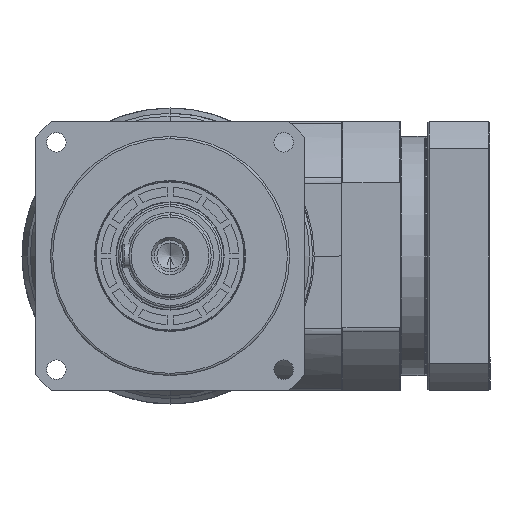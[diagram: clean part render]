
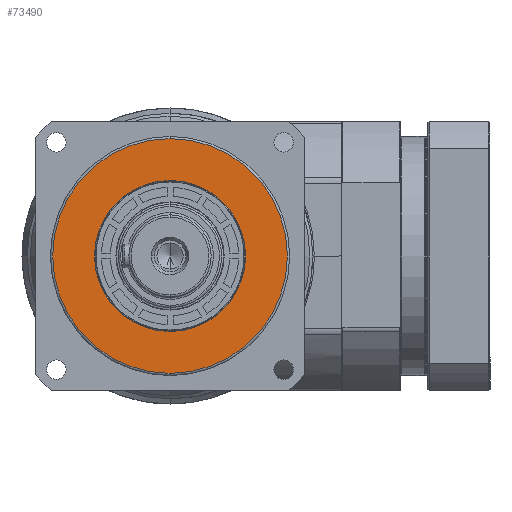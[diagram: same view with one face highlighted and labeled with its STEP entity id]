
A CAD part, left-side view. The second image highlights one B-rep face of the part: STEP entity #73490.
In plain terms, the highlighted planar face has unit normal (-1, 0, 0).
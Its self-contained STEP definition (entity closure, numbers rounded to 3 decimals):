
#2332 = FACE_OUTER_BOUND ( 'NONE', #58946, .T. ) ;
#6507 = AXIS2_PLACEMENT_3D ( 'NONE', #24726, #64258, #59677 ) ;
#8024 = DIRECTION ( 'NONE',  ( 0., 0., 1. ) ) ;
#9942 = CIRCLE ( 'NONE', #54969, 78.5 ) ;
#15047 = CARTESIAN_POINT ( 'NONE',  ( -314.043, 1.591, -3.486 ) ) ;
#19366 = ORIENTED_EDGE ( 'NONE', *, *, #37286, .F. ) ;
#20298 = CARTESIAN_POINT ( 'NONE',  ( -314.043, 1.591, 75.014 ) ) ;
#20841 = VERTEX_POINT ( 'NONE', #15047 ) ;
#21140 = EDGE_CURVE ( 'NONE', #21398, #20841, #9942, .T. ) ;
#21398 = VERTEX_POINT ( 'NONE', #74597 ) ;
#24726 = CARTESIAN_POINT ( 'NONE',  ( -314.043, 1.591, 75.014 ) ) ;
#27131 = EDGE_CURVE ( 'NONE', #33261, #58461, #45402, .T. ) ;
#27178 = CIRCLE ( 'NONE', #30833, 78.5 ) ;
#30414 = CIRCLE ( 'NONE', #36515, 50.5 ) ;
#30660 = EDGE_CURVE ( 'NONE', #20841, #21398, #27178, .T. ) ;
#30833 = AXIS2_PLACEMENT_3D ( 'NONE', #62933, #38237, #62189 ) ;
#33261 = VERTEX_POINT ( 'NONE', #36902 ) ;
#34188 = DIRECTION ( 'NONE',  ( -1., 0., 0. ) ) ;
#36515 = AXIS2_PLACEMENT_3D ( 'NONE', #57001, #34188, #62693 ) ;
#36902 = CARTESIAN_POINT ( 'NONE',  ( -314.043, 1.591, 24.514 ) ) ;
#37286 = EDGE_CURVE ( 'NONE', #58461, #33261, #30414, .T. ) ;
#38072 = FACE_BOUND ( 'NONE', #58807, .T. ) ;
#38237 = DIRECTION ( 'NONE',  ( -1., 0., 0. ) ) ;
#40383 = ORIENTED_EDGE ( 'NONE', *, *, #30660, .T. ) ;
#40420 = ORIENTED_EDGE ( 'NONE', *, *, #27131, .F. ) ;
#45402 = CIRCLE ( 'NONE', #6507, 50.5 ) ;
#48739 = CARTESIAN_POINT ( 'NONE',  ( -314.043, 1.591, 75.014 ) ) ;
#50833 = AXIS2_PLACEMENT_3D ( 'NONE', #48739, #54828, #8024 ) ;
#54828 = DIRECTION ( 'NONE',  ( -1., 0., 0. ) ) ;
#54969 = AXIS2_PLACEMENT_3D ( 'NONE', #20298, #61003, #60610 ) ;
#57001 = CARTESIAN_POINT ( 'NONE',  ( -314.043, 1.591, 75.014 ) ) ;
#58461 = VERTEX_POINT ( 'NONE', #75172 ) ;
#58807 = EDGE_LOOP ( 'NONE', ( #40420, #19366 ) ) ;
#58946 = EDGE_LOOP ( 'NONE', ( #66556, #40383 ) ) ;
#59677 = DIRECTION ( 'NONE',  ( 0., 0., 1. ) ) ;
#60513 = PLANE ( 'NONE',  #50833 ) ;
#60610 = DIRECTION ( 'NONE',  ( 0., 0., 1. ) ) ;
#61003 = DIRECTION ( 'NONE',  ( -1., 0., 0. ) ) ;
#62189 = DIRECTION ( 'NONE',  ( 0., 0., 1. ) ) ;
#62693 = DIRECTION ( 'NONE',  ( 0., 0., 1. ) ) ;
#62933 = CARTESIAN_POINT ( 'NONE',  ( -314.043, 1.591, 75.014 ) ) ;
#64258 = DIRECTION ( 'NONE',  ( -1., 0., 0. ) ) ;
#66556 = ORIENTED_EDGE ( 'NONE', *, *, #21140, .T. ) ;
#73490 = ADVANCED_FACE ( 'NONE', ( #2332, #38072 ), #60513, .T. ) ;
#74597 = CARTESIAN_POINT ( 'NONE',  ( -314.043, 1.591, 153.514 ) ) ;
#75172 = CARTESIAN_POINT ( 'NONE',  ( -314.043, 1.591, 125.514 ) ) ;
